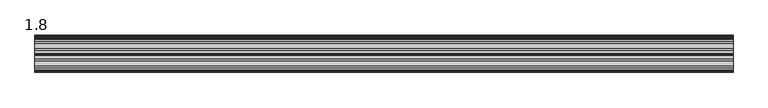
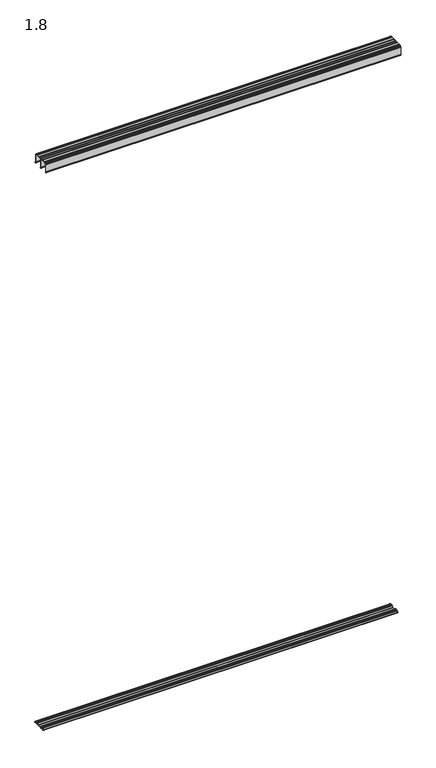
"""IFC4 building model written with IfcOpenShell, lengths in millimetres: proxy geometry, Doors-Other- SOGAL-SOG020022 : 1.8."""

from ifc_helpers import new_model, si_unit, point, frame, frame_2d, origin, place, context, project, spatial, polyline, circle_curve, trimmed, segment, composite_curve, outline, extrude, source, transform, mapped, element, save
from ifc_brep_helpers import plane_surface, cylinder_surface, revolved_surface, advanced_brep


def proxy_1_8_faa1cc4c(model_context):
    return source(origin(), model_context, "Body", "SolidModel", [
        advanced_brep(
        [(800.0000092, 43.0231264, 2711.1679716), (800.0000092, 40.9915477, 2709.1363928), (800.0000092, 38.959969, 2711.1679716), (800.0000092, 30.9999973, 2711.1679716), (800.0000092, 26.8729963, 2711.1679716), (800.0000092, 14.8730021, 2711.1679716), (800.0000092, 10.7460011, 2711.1679716), (800.0000092, 6.3988083, 2711.1679716), (800.0000092, 4.9999855, 2709.6679178), (800.0000092, 4.9999855, 2708.1679003), (800.0000092, 4.0000102, 2707.167925), (800.0000092, 2.4999928, 2707.167925), (800.0000092, 1.0000116, 2705.6679439), (800.0000092, 1.0000116, 2671.6679117), (800.0000092, 0.205002, 2670.0499872), (800.0000092, 0.0, 2669.1679418), (800.0000092, 0.0, 2667.4179531), (800.0000092, 2.1113893, 2667.4179531), (800.0000092, 2.1113893, 2668.6679494), (800.0000092, 1.3113893, 2668.6679494), (800.0000092, 1.3113893, 2667.4179531), (800.0000092, 0.5000058, 2667.4179531), (800.0000092, 0.5000058, 2669.5165112), (800.0000092, 1.4999811, 2671.5519336), (800.0000092, 1.4999811, 2705.6679439), (800.0000092, 2.4999928, 2706.6679555), (800.0000092, 4.0000102, 2706.6679555), (800.0000092, 5.4999913, 2708.1679367), (800.0000092, 5.4999913, 2709.6679178), (800.0000092, 6.4448445, 2710.6764227), (800.0000092, 10.7507969, 2710.6764227), (800.0000092, 14.696305, 2710.7001949), (800.0000092, 27.0496934, 2710.7001949), (800.0000092, 30.9952015, 2710.6764227), (800.0000092, 38.959969, 2710.6764227), (800.0000092, 40.4999989, 2709.1363928), (800.0000092, 40.4999989, 2668.6173711), (800.0000092, 39.9876209, 2667.2285634), (800.0000092, 40.9915477, 2664.6739035), (800.0000092, 41.9954744, 2667.2285634), (800.0000092, 41.4830965, 2668.6173711), (800.0000092, 41.4830965, 2709.1363928), (800.0000092, 43.0231264, 2710.6764227), (800.0000092, 50.9878939, 2710.6764227), (800.0000092, 54.933402, 2710.7001949), (800.0000092, 67.2867904, 2710.7001949), (800.0000092, 71.2322985, 2710.6764227), (800.0000092, 75.5382509, 2710.6764227), (800.0000092, 76.4831041, 2709.6679178), (800.0000092, 76.4831041, 2708.1679367), (800.0000092, 77.9830852, 2706.6679555), (800.0000092, 79.4831026, 2706.6679555), (800.0000092, 80.4831143, 2705.6679439), (800.0000092, 80.4831143, 2671.5519336), (800.0000092, 81.4830896, 2669.5165112), (800.0000092, 81.4830896, 2667.4179531), (800.0000092, 80.6717061, 2667.4179531), (800.0000092, 80.6717061, 2668.6679494), (800.0000092, 79.8717061, 2668.6679494), (800.0000092, 79.8717061, 2667.4179531), (800.0000092, 81.9830954, 2667.4179531), (800.0000092, 81.9830954, 2669.1679418), (800.0000092, 81.7780934, 2670.0499872), (800.0000092, 80.9830837, 2671.6679117), (800.0000092, 80.9830837, 2705.6679439), (800.0000092, 79.4831026, 2707.167925), (800.0000092, 77.9830852, 2707.167925), (800.0000092, 76.9831099, 2708.1679003), (800.0000092, 76.9831099, 2709.6679178), (800.0000092, 75.5842871, 2711.1679716), (800.0000092, 71.2370943, 2711.1679716), (800.0000092, 67.1100933, 2711.1679716), (800.0000092, 55.110099, 2711.1679716), (800.0000092, 50.983098, 2711.1679716), (800.0000092, 41.6980443, 2666.8676318), (800.0000092, 40.2681734, 2666.8676318), (800.0000092, 40.9915477, 2668.6162721), (-799.9999908, 43.0231264, 2711.1679716), (-799.9999908, 50.983098, 2711.1679716), (-799.9999908, 55.110099, 2711.1679716), (-799.9999908, 67.1100933, 2711.1679716), (-799.9999908, 71.2370943, 2711.1679716), (-799.9999908, 75.5842871, 2711.1679716), (-799.9999908, 76.9831099, 2709.6679178), (-799.9999908, 76.9831099, 2708.1679003), (-799.9999908, 77.9830852, 2707.167925), (-799.9999908, 79.4831026, 2707.167925), (-799.9999908, 80.9830837, 2705.6679439), (-799.9999908, 80.9830837, 2671.6679117), (-799.9999908, 81.7780934, 2670.0499872), (-799.9999908, 81.9830954, 2669.1679418), (-799.9999908, 81.9830954, 2667.4179531), (-799.9999908, 79.8717061, 2667.4179531), (-799.9999908, 79.8717061, 2668.6679494), (-799.9999908, 80.6717061, 2668.6679494), (-799.9999908, 80.6717061, 2667.4179531), (-799.9999908, 81.4830896, 2667.4179531), (-799.9999908, 81.4830896, 2669.5165112), (-799.9999908, 80.4831143, 2671.5519336), (-799.9999908, 80.4831143, 2705.6679439), (-799.9999908, 79.4831026, 2706.6679555), (-799.9999908, 77.9830852, 2706.6679555), (-799.9999908, 76.4831041, 2708.1679367), (-799.9999908, 76.4831041, 2709.6679178), (-799.9999908, 75.5382509, 2710.6764227), (-799.9999908, 71.2322985, 2710.6764227), (-799.9999908, 67.2867904, 2710.7001949), (-799.9999908, 54.933402, 2710.7001949), (-799.9999908, 50.9878939, 2710.6764227), (-799.9999908, 43.0231264, 2710.6764227), (-799.9999908, 41.4830965, 2709.1363928), (-799.9999908, 41.4830965, 2668.6173711), (-799.9999908, 41.9954744, 2667.2285634), (-799.9999908, 40.9915477, 2664.6739035), (-799.9999908, 39.9876209, 2667.2285634), (-799.9999908, 40.4999989, 2668.6173711), (-799.9999908, 40.4999989, 2709.1363928), (-799.9999908, 38.959969, 2710.6764227), (-799.9999908, 30.9952015, 2710.6764227), (-799.9999908, 27.0496934, 2710.7001949), (-799.9999908, 14.696305, 2710.7001949), (-799.9999908, 10.7507969, 2710.6764227), (-799.9999908, 6.4448445, 2710.6764227), (-799.9999908, 5.4999913, 2709.6679178), (-799.9999908, 5.4999913, 2708.1679367), (-799.9999908, 4.0000102, 2706.6679555), (-799.9999908, 2.4999928, 2706.6679555), (-799.9999908, 1.4999811, 2705.6679439), (-799.9999908, 1.4999811, 2671.5519336), (-799.9999908, 0.5000058, 2669.5165112), (-799.9999908, 0.5000058, 2667.4179531), (-799.9999908, 1.3113893, 2667.4179531), (-799.9999908, 1.3113893, 2668.6679494), (-799.9999908, 2.1113893, 2668.6679494), (-799.9999908, 2.1113893, 2667.4179531), (-799.9999908, 0.0, 2667.4179531), (-799.9999908, 0.0, 2669.1679418), (-799.9999908, 0.205002, 2670.0499872), (-799.9999908, 1.0000116, 2671.6679117), (-799.9999908, 1.0000116, 2705.6679439), (-799.9999908, 2.4999928, 2707.167925), (-799.9999908, 4.0000102, 2707.167925), (-799.9999908, 4.9999855, 2708.1679003), (-799.9999908, 4.9999855, 2709.6679178), (-799.9999908, 6.3988083, 2711.1679716), (-799.9999908, 10.7460011, 2711.1679716), (-799.9999908, 14.8730021, 2711.1679716), (-799.9999908, 26.8729963, 2711.1679716), (-799.9999908, 30.9999973, 2711.1679716), (-799.9999908, 38.959969, 2711.1679716), (-799.9999908, 40.9915477, 2709.1363928), (-799.9999908, 41.6980443, 2666.8676318), (-799.9999908, 40.9915477, 2668.6162721), (-799.9999908, 40.2681734, 2666.8676318)],
        [
            (0, 1, circle_curve(frame((800.0000092, 43.0231264, 2709.1363928), z_axis=(1.0, 0.0, 0.0), x_axis=(0.0, 1.0, 0.0)), 2.0315787)),
            (1, 2, circle_curve(frame((800.0000092, 38.959969, 2709.1363928), z_axis=(1.0, 0.0, 0.0), x_axis=(0.0, 1.0, 0.0)), 2.0315787)),
            (2, 3),
            (3, 4, circle_curve(frame((800.0000092, 28.9364968, 2707.741466), z_axis=(1.0, 0.0, 0.0), x_axis=(0.0, 1.0, 0.0)), 3.9998718)),
            (4, 5),
            (5, 6, circle_curve(frame((800.0000092, 12.8095016, 2707.741466), z_axis=(1.0, 0.0, 0.0), x_axis=(0.0, 1.0, 0.0)), 3.9998718)),
            (6, 7),
            (7, 8, circle_curve(frame((800.0000092, 6.5037023, 2709.6679178), z_axis=(1.0, 0.0, 0.0), x_axis=(0.0, 1.0, 0.0)), 1.5037168)),
            (8, 9),
            (9, 10, circle_curve(frame((800.0000092, 4.0000102, 2708.1679003), z_axis=(-1.0, 0.0, 0.0), x_axis=(0.0, 1.0, 0.0)), 0.9999753)),
            (10, 11),
            (11, 12, circle_curve(frame((800.0000092, 2.4999928, 2705.6679439), z_axis=(1.0, 0.0, 0.0), x_axis=(0.0, 1.0, 0.0)), 1.4999811)),
            (12, 13),
            (13, 14),
            (14, 15, circle_curve(frame((800.0000092, 2.000053, 2669.1679418), z_axis=(1.0, 0.0, 0.0), x_axis=(0.0, 1.0, 0.0)), 2.000053)),
            (15, 16),
            (16, 17, circle_curve(frame((800.0000092, 1.0556947, 2667.8588098), z_axis=(1.0, 0.0, 0.0), x_axis=(0.0, 1.0, 0.0)), 1.144048)),
            (17, 18),
            (18, 19),
            (19, 20),
            (20, 21),
            (21, 22),
            (22, 23),
            (23, 24),
            (24, 25, circle_curve(frame((800.0000092, 2.4999928, 2705.6679439), z_axis=(-1.0, 0.0, 0.0), x_axis=(0.0, 1.0, 0.0)), 1.0000116)),
            (25, 26),
            (26, 27, circle_curve(frame((800.0000092, 4.0000102, 2708.1679367), z_axis=(1.0, 0.0, 0.0), x_axis=(0.0, 1.0, 0.0)), 1.4999811)),
            (27, 28),
            (28, 29, circle_curve(frame((800.0000092, 6.5106403, 2709.6679178), z_axis=(-1.0, 0.0, 0.0), x_axis=(0.0, 1.0, 0.0)), 1.010649)),
            (29, 30),
            (30, 31, circle_curve(frame((800.0000092, 12.7427575, 2707.5005547), z_axis=(-1.0, 0.0, 0.0), x_axis=(0.0, 1.0, 0.0)), 3.7488725)),
            (31, 32),
            (32, 33, circle_curve(frame((800.0000092, 29.0032408, 2707.5005547), z_axis=(-1.0, 0.0, 0.0), x_axis=(0.0, 1.0, 0.0)), 3.7488725)),
            (33, 34),
            (34, 35, circle_curve(frame((800.0000092, 38.959969, 2709.1363928), z_axis=(-1.0, 0.0, 0.0), x_axis=(0.0, 1.0, 0.0)), 1.5400299)),
            (35, 36),
            (36, 37, circle_curve(frame((800.0000092, 38.9121255, 2668.4142705), z_axis=(-1.0, 0.0, 0.0), x_axis=(0.0, 1.0, 0.0)), 1.6008097)),
            (37, 38, circle_curve(frame((800.0000092, 40.97367, 2666.1414688), z_axis=(1.0, 0.0, 0.0), x_axis=(0.0, 1.0, 0.0)), 1.4676742)),
            (38, 39, circle_curve(frame((800.0000092, 41.0094254, 2666.1414688), z_axis=(1.0, 0.0, 0.0), x_axis=(0.0, 1.0, 0.0)), 1.4676742)),
            (39, 40, circle_curve(frame((800.0000092, 43.0709699, 2668.4142705), z_axis=(-1.0, 0.0, 0.0), x_axis=(0.0, 1.0, 0.0)), 1.6008097)),
            (40, 41),
            (41, 42, circle_curve(frame((800.0000092, 43.0231264, 2709.1363928), z_axis=(-1.0, 0.0, 0.0), x_axis=(0.0, 1.0, 0.0)), 1.5400299)),
            (42, 43),
            (43, 44, circle_curve(frame((800.0000092, 52.9798545, 2707.5005547), z_axis=(-1.0, 0.0, 0.0), x_axis=(0.0, 1.0, 0.0)), 3.7488725)),
            (44, 45),
            (45, 46, circle_curve(frame((800.0000092, 69.2403378, 2707.5005547), z_axis=(-1.0, 0.0, 0.0), x_axis=(0.0, 1.0, 0.0)), 3.7488725)),
            (46, 47),
            (47, 48, circle_curve(frame((800.0000092, 75.4724551, 2709.6679178), z_axis=(-1.0, 0.0, 0.0), x_axis=(0.0, 1.0, 0.0)), 1.010649)),
            (48, 49),
            (49, 50, circle_curve(frame((800.0000092, 77.9830852, 2708.1679367), z_axis=(1.0, 0.0, 0.0), x_axis=(0.0, 1.0, 0.0)), 1.4999811)),
            (50, 51),
            (51, 52, circle_curve(frame((800.0000092, 79.4831026, 2705.6679439), z_axis=(-1.0, 0.0, 0.0), x_axis=(0.0, 1.0, 0.0)), 1.0000116)),
            (52, 53),
            (53, 54),
            (54, 55),
            (55, 56),
            (56, 57),
            (57, 58),
            (58, 59),
            (59, 60, circle_curve(frame((800.0000092, 80.9274007, 2667.8588098), z_axis=(1.0, 0.0, 0.0), x_axis=(0.0, 1.0, 0.0)), 1.144048)),
            (60, 61),
            (61, 62, circle_curve(frame((800.0000092, 79.9830424, 2669.1679418), z_axis=(1.0, 0.0, 0.0), x_axis=(0.0, 1.0, 0.0)), 2.000053)),
            (62, 63),
            (63, 64),
            (64, 65, circle_curve(frame((800.0000092, 79.4831026, 2705.6679439), z_axis=(1.0, 0.0, 0.0), x_axis=(0.0, 1.0, 0.0)), 1.4999811)),
            (65, 66),
            (66, 67, circle_curve(frame((800.0000092, 77.9830852, 2708.1679003), z_axis=(-1.0, 0.0, 0.0), x_axis=(0.0, 1.0, 0.0)), 0.9999753)),
            (67, 68),
            (68, 69, circle_curve(frame((800.0000092, 75.4793931, 2709.6679178), z_axis=(1.0, 0.0, 0.0), x_axis=(0.0, 1.0, 0.0)), 1.5037168)),
            (69, 70),
            (70, 71, circle_curve(frame((800.0000092, 69.1735938, 2707.741466), z_axis=(1.0, 0.0, 0.0), x_axis=(0.0, 1.0, 0.0)), 3.9998718)),
            (71, 72),
            (72, 73, circle_curve(frame((800.0000092, 53.0465985, 2707.741466), z_axis=(1.0, 0.0, 0.0), x_axis=(0.0, 1.0, 0.0)), 3.9998718)),
            (73, 0),
            (74, 75, circle_curve(frame((800.0000092, 40.9831089, 2666.1799102), z_axis=(-1.0, 0.0, 0.0), x_axis=(0.0, 1.0, 0.0)), 0.9920149)),
            (75, 76, circle_curve(frame((800.0000092, 38.4005422, 2668.6641721), z_axis=(1.0, 0.0, 0.0), x_axis=(0.0, 1.0, 0.0)), 2.5914482)),
            (76, 74, circle_curve(frame((800.0000092, 43.3376029, 2668.5470982), z_axis=(1.0, 0.0, 0.0), x_axis=(0.0, 1.0, 0.0)), 2.3470748)),
            (77, 78),
            (78, 79, circle_curve(frame((-799.9999908, 53.0465985, 2707.741466), z_axis=(-1.0, 0.0, 0.0), x_axis=(0.0, 1.0, 0.0)), 3.9998718)),
            (79, 80),
            (80, 81, circle_curve(frame((-799.9999908, 69.1735938, 2707.741466), z_axis=(-1.0, 0.0, 0.0), x_axis=(0.0, 1.0, 0.0)), 3.9998718)),
            (81, 82),
            (82, 83, circle_curve(frame((-799.9999908, 75.4793931, 2709.6679178), z_axis=(-1.0, 0.0, 0.0), x_axis=(0.0, 1.0, 0.0)), 1.5037168)),
            (83, 84),
            (84, 85, circle_curve(frame((-799.9999908, 77.9830852, 2708.1679003), z_axis=(1.0, 0.0, 0.0), x_axis=(0.0, 1.0, 0.0)), 0.9999753)),
            (85, 86),
            (86, 87, circle_curve(frame((-799.9999908, 79.4831026, 2705.6679439), z_axis=(-1.0, 0.0, 0.0), x_axis=(0.0, 1.0, 0.0)), 1.4999811)),
            (87, 88),
            (88, 89),
            (89, 90, circle_curve(frame((-799.9999908, 79.9830424, 2669.1679418), z_axis=(-1.0, 0.0, 0.0), x_axis=(0.0, 1.0, 0.0)), 2.000053)),
            (90, 91),
            (91, 92, circle_curve(frame((-799.9999908, 80.9274007, 2667.8588098), z_axis=(-1.0, 0.0, 0.0), x_axis=(0.0, 1.0, 0.0)), 1.144048)),
            (92, 93),
            (93, 94),
            (94, 95),
            (95, 96),
            (96, 97),
            (97, 98),
            (98, 99),
            (99, 100, circle_curve(frame((-799.9999908, 79.4831026, 2705.6679439), z_axis=(1.0, 0.0, 0.0), x_axis=(0.0, 1.0, 0.0)), 1.0000116)),
            (100, 101),
            (101, 102, circle_curve(frame((-799.9999908, 77.9830852, 2708.1679367), z_axis=(-1.0, 0.0, 0.0), x_axis=(0.0, 1.0, 0.0)), 1.4999811)),
            (102, 103),
            (103, 104, circle_curve(frame((-799.9999908, 75.4724551, 2709.6679178), z_axis=(1.0, 0.0, 0.0), x_axis=(0.0, 1.0, 0.0)), 1.010649)),
            (104, 105),
            (105, 106, circle_curve(frame((-799.9999908, 69.2403378, 2707.5005547), z_axis=(1.0, 0.0, 0.0), x_axis=(0.0, 1.0, 0.0)), 3.7488725)),
            (106, 107),
            (107, 108, circle_curve(frame((-799.9999908, 52.9798545, 2707.5005547), z_axis=(1.0, 0.0, 0.0), x_axis=(0.0, 1.0, 0.0)), 3.7488725)),
            (108, 109),
            (109, 110, circle_curve(frame((-799.9999908, 43.0231264, 2709.1363928), z_axis=(1.0, 0.0, 0.0), x_axis=(0.0, 1.0, 0.0)), 1.5400299)),
            (110, 111),
            (111, 112, circle_curve(frame((-799.9999908, 43.0709699, 2668.4142705), z_axis=(1.0, 0.0, 0.0), x_axis=(0.0, 1.0, 0.0)), 1.6008097)),
            (112, 113, circle_curve(frame((-799.9999908, 41.0094254, 2666.1414688), z_axis=(-1.0, 0.0, 0.0), x_axis=(0.0, 1.0, 0.0)), 1.4676742)),
            (113, 114, circle_curve(frame((-799.9999908, 40.97367, 2666.1414688), z_axis=(-1.0, 0.0, 0.0), x_axis=(0.0, 1.0, 0.0)), 1.4676742)),
            (114, 115, circle_curve(frame((-799.9999908, 38.9121255, 2668.4142705), z_axis=(1.0, 0.0, 0.0), x_axis=(0.0, 1.0, 0.0)), 1.6008097)),
            (115, 116),
            (116, 117, circle_curve(frame((-799.9999908, 38.959969, 2709.1363928), z_axis=(1.0, 0.0, 0.0), x_axis=(0.0, 1.0, 0.0)), 1.5400299)),
            (117, 118),
            (118, 119, circle_curve(frame((-799.9999908, 29.0032408, 2707.5005547), z_axis=(1.0, 0.0, 0.0), x_axis=(0.0, 1.0, 0.0)), 3.7488725)),
            (119, 120),
            (120, 121, circle_curve(frame((-799.9999908, 12.7427575, 2707.5005547), z_axis=(1.0, 0.0, 0.0), x_axis=(0.0, 1.0, 0.0)), 3.7488725)),
            (121, 122),
            (122, 123, circle_curve(frame((-799.9999908, 6.5106403, 2709.6679178), z_axis=(1.0, 0.0, 0.0), x_axis=(0.0, 1.0, 0.0)), 1.010649)),
            (123, 124),
            (124, 125, circle_curve(frame((-799.9999908, 4.0000102, 2708.1679367), z_axis=(-1.0, 0.0, 0.0), x_axis=(0.0, 1.0, 0.0)), 1.4999811)),
            (125, 126),
            (126, 127, circle_curve(frame((-799.9999908, 2.4999928, 2705.6679439), z_axis=(1.0, 0.0, 0.0), x_axis=(0.0, 1.0, 0.0)), 1.0000116)),
            (127, 128),
            (128, 129),
            (129, 130),
            (130, 131),
            (131, 132),
            (132, 133),
            (133, 134),
            (134, 135, circle_curve(frame((-799.9999908, 1.0556947, 2667.8588098), z_axis=(-1.0, 0.0, 0.0), x_axis=(0.0, 1.0, 0.0)), 1.144048)),
            (135, 136),
            (136, 137, circle_curve(frame((-799.9999908, 2.000053, 2669.1679418), z_axis=(-1.0, 0.0, 0.0), x_axis=(0.0, 1.0, 0.0)), 2.000053)),
            (137, 138),
            (138, 139),
            (139, 140, circle_curve(frame((-799.9999908, 2.4999928, 2705.6679439), z_axis=(-1.0, 0.0, 0.0), x_axis=(0.0, 1.0, 0.0)), 1.4999811)),
            (140, 141),
            (141, 142, circle_curve(frame((-799.9999908, 4.0000102, 2708.1679003), z_axis=(1.0, 0.0, 0.0), x_axis=(0.0, 1.0, 0.0)), 0.9999753)),
            (142, 143),
            (143, 144, circle_curve(frame((-799.9999908, 6.5037023, 2709.6679178), z_axis=(-1.0, 0.0, 0.0), x_axis=(0.0, 1.0, 0.0)), 1.5037168)),
            (144, 145),
            (145, 146, circle_curve(frame((-799.9999908, 12.8095016, 2707.741466), z_axis=(-1.0, 0.0, 0.0), x_axis=(0.0, 1.0, 0.0)), 3.9998718)),
            (146, 147),
            (147, 148, circle_curve(frame((-799.9999908, 28.9364968, 2707.741466), z_axis=(-1.0, 0.0, 0.0), x_axis=(0.0, 1.0, 0.0)), 3.9998718)),
            (148, 149),
            (149, 150, circle_curve(frame((-799.9999908, 38.959969, 2709.1363928), z_axis=(-1.0, 0.0, 0.0), x_axis=(0.0, 1.0, 0.0)), 2.0315787)),
            (150, 77, circle_curve(frame((-799.9999908, 43.0231264, 2709.1363928), z_axis=(-1.0, 0.0, 0.0), x_axis=(0.0, 1.0, 0.0)), 2.0315787)),
            (151, 152, circle_curve(frame((-799.9999908, 43.3376029, 2668.5470982), z_axis=(-1.0, 0.0, 0.0), x_axis=(0.0, 1.0, 0.0)), 2.3470748)),
            (152, 153, circle_curve(frame((-799.9999908, 38.4005422, 2668.6641721), z_axis=(-1.0, 0.0, 0.0), x_axis=(0.0, 1.0, 0.0)), 2.5914482)),
            (153, 151, circle_curve(frame((-799.9999908, 40.9831089, 2666.1799102), z_axis=(1.0, 0.0, 0.0), x_axis=(0.0, 1.0, 0.0)), 0.9920149)),
            (0, 77),
            (150, 1),
            (149, 2),
            (148, 3),
            (147, 4),
            (146, 5),
            (145, 6),
            (144, 7),
            (143, 8),
            (142, 9),
            (141, 10),
            (140, 11),
            (139, 12),
            (138, 13),
            (137, 14),
            (136, 15),
            (135, 16),
            (134, 17),
            (133, 18),
            (132, 19),
            (131, 20),
            (130, 21),
            (129, 22),
            (128, 23),
            (127, 24),
            (126, 25),
            (125, 26),
            (124, 27),
            (123, 28),
            (122, 29),
            (121, 30),
            (120, 31),
            (119, 32),
            (118, 33),
            (117, 34),
            (116, 35),
            (115, 36),
            (114, 37),
            (113, 38),
            (112, 39),
            (111, 40),
            (110, 41),
            (109, 42),
            (108, 43),
            (107, 44),
            (106, 45),
            (105, 46),
            (104, 47),
            (103, 48),
            (102, 49),
            (101, 50),
            (100, 51),
            (99, 52),
            (98, 53),
            (97, 54),
            (96, 55),
            (95, 56),
            (94, 57),
            (93, 58),
            (92, 59),
            (91, 60),
            (90, 61),
            (89, 62),
            (88, 63),
            (87, 64),
            (86, 65),
            (85, 66),
            (84, 67),
            (83, 68),
            (82, 69),
            (81, 70),
            (80, 71),
            (79, 72),
            (78, 73),
            (74, 151),
            (153, 75),
            (152, 76),
        ],
        [
            plane_surface(frame((800.0000092, 45.0547052, 2709.1363928), z_axis=(1.0, 0.0, 0.0), x_axis=(0.0, 0.0, 1.0))),
            plane_surface(frame((-799.9999908, 45.0547052, 2709.1363928), z_axis=(-1.0, 0.0, 0.0), x_axis=(0.0, 0.0, -1.0))),
            cylinder_surface(frame((-799.9999908, 43.0231264, 2709.1363928), z_axis=(1.0, 0.0, 0.0), x_axis=(0.0, 1.0, 0.0)), 2.0315787),
            cylinder_surface(frame((-799.9999908, 38.959969, 2709.1363928), z_axis=(1.0, 0.0, 0.0), x_axis=(0.0, 1.0, 0.0)), 2.0315787),
            plane_surface(frame((800.0000092, 38.959969, 2711.1679716), z_axis=(0.0, 0.0, 1.0), x_axis=(-1.0, 0.0, 0.0))),
            cylinder_surface(frame((-799.9999908, 28.9364968, 2707.741466), z_axis=(1.0, 0.0, 0.0), x_axis=(0.0, 1.0, 0.0)), 3.9998718),
            plane_surface(frame((800.0000092, 26.8729963, 2711.1679716), z_axis=(0.0, 0.0, 1.0), x_axis=(-1.0, 0.0, 0.0))),
            cylinder_surface(frame((-799.9999908, 12.8095016, 2707.741466), z_axis=(1.0, 0.0, 0.0), x_axis=(0.0, 1.0, 0.0)), 3.9998718),
            plane_surface(frame((800.0000092, 10.7460011, 2711.1679716), z_axis=(0.0, 0.0, 1.0), x_axis=(-1.0, 0.0, 0.0))),
            cylinder_surface(frame((-799.9999908, 6.5037023, 2709.6679178), z_axis=(1.0, 0.0, 0.0), x_axis=(0.0, 1.0, 0.0)), 1.5037168),
            plane_surface(frame((800.0000092, 4.9999855, 2709.6679178), z_axis=(0.0, -1.0, 0.0), x_axis=(-1.0, 0.0, 0.0))),
            revolved_surface(polyline([(-799.9999908, 4.9999855, 2708.1679003), (800.0000092, 4.9999855, 2708.1679003)]), (-799.9999908, 4.0000102, 2708.1679003), (-1.0, 0.0, 0.0)),
            plane_surface(frame((800.0000092, 4.0000102, 2707.167925), z_axis=(0.0, 0.0, 1.0), x_axis=(-1.0, 0.0, 0.0))),
            cylinder_surface(frame((-799.9999908, 2.4999928, 2705.6679439), z_axis=(1.0, 0.0, 0.0), x_axis=(0.0, 1.0, 0.0)), 1.4999811),
            plane_surface(frame((800.0000092, 1.0000116, 2705.6679439), z_axis=(0.0, -1.0, 0.0), x_axis=(-1.0, 0.0, 0.0))),
            plane_surface(frame((800.0000092, 1.0000116, 2671.6679117), z_axis=(0.0, -0.8975017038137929, 0.44101098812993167), x_axis=(-1.0, 0.0, 0.0))),
            cylinder_surface(frame((-799.9999908, 2.000053, 2669.1679418), z_axis=(1.0, 0.0, 0.0), x_axis=(0.0, 1.0, 0.0)), 2.000053),
            plane_surface(frame((800.0000092, 0.0, 2669.1679418), z_axis=(0.0, -1.0, 0.0), x_axis=(-1.0, 0.0, 0.0))),
            cylinder_surface(frame((-799.9999908, 1.0556947, 2667.8588098), z_axis=(1.0, 0.0, 0.0), x_axis=(0.0, 1.0, 0.0)), 1.144048),
            plane_surface(frame((800.0000092, 2.1113893, 2667.4179531), z_axis=(0.0, 1.0, 0.0), x_axis=(-1.0, 0.0, 0.0))),
            plane_surface(frame((800.0000092, 2.1113893, 2668.6679494), z_axis=(0.0, 0.0, 1.0), x_axis=(-1.0, 0.0, 0.0))),
            plane_surface(frame((800.0000092, 1.3113893, 2668.6679494), z_axis=(0.0, -1.0, 0.0), x_axis=(-1.0, 0.0, 0.0))),
            plane_surface(frame((800.0000092, 1.3113893, 2667.4179531), z_axis=(0.0, 0.0, 1.0), x_axis=(-1.0, 0.0, 0.0))),
            plane_surface(frame((800.0000092, 0.5000058, 2667.4179531), z_axis=(0.0, 1.0, 0.0), x_axis=(-1.0, 0.0, 0.0))),
            plane_surface(frame((800.0000092, 0.5000058, 2669.5165112), z_axis=(0.0, 0.8975336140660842, -0.4409460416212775), x_axis=(-1.0, 0.0, 0.0))),
            plane_surface(frame((800.0000092, 1.4999811, 2671.5519336), z_axis=(0.0, 1.0, -1.9235379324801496e-12), x_axis=(-1.0, 0.0, 0.0))),
            revolved_surface(polyline([(-799.9999908, 3.5000044, 2705.6679439), (800.0000092, 3.5000044, 2705.6679439)]), (-799.9999908, 2.4999928, 2705.6679439), (-1.0, 0.0, 0.0)),
            plane_surface(frame((800.0000092, 2.4999928, 2706.6679555), z_axis=(0.0, 0.0, -1.0), x_axis=(-1.0, 0.0, 0.0))),
            cylinder_surface(frame((-799.9999908, 4.0000102, 2708.1679367), z_axis=(1.0, 0.0, 0.0), x_axis=(0.0, 1.0, 0.0)), 1.4999811),
            plane_surface(frame((800.0000092, 5.4999913, 2708.1679367), z_axis=(0.0, 1.0, 0.0), x_axis=(-1.0, 0.0, 0.0))),
            revolved_surface(polyline([(-799.9999908, 7.5212893, 2709.6679178), (800.0000092, 7.5212893, 2709.6679178)]), (-799.9999908, 6.5106403, 2709.6679178), (-1.0, 0.0, 0.0)),
            plane_surface(frame((800.0000092, 6.4448445, 2710.6764227), z_axis=(0.0, 0.0, -1.0), x_axis=(-1.0, 0.0, 0.0))),
            revolved_surface(polyline([(-799.9999908, 16.49163, 2707.5005547), (800.0000092, 16.49163, 2707.5005547)]), (-799.9999908, 12.7427575, 2707.5005547), (-1.0, 0.0, 0.0)),
            plane_surface(frame((800.0000092, 14.696305, 2710.7001949), z_axis=(0.0, 0.0, -1.0), x_axis=(-1.0, 0.0, 0.0))),
            revolved_surface(polyline([(-799.9999908, 32.7521133, 2707.5005547), (800.0000092, 32.7521133, 2707.5005547)]), (-799.9999908, 29.0032408, 2707.5005547), (-1.0, 0.0, 0.0)),
            plane_surface(frame((800.0000092, 30.9952015, 2710.6764227), z_axis=(0.0, 0.0, -1.0), x_axis=(-1.0, 0.0, 0.0))),
            revolved_surface(polyline([(-799.9999908, 40.4999989, 2709.1363928), (800.0000092, 40.4999989, 2709.1363928)]), (-799.9999908, 38.959969, 2709.1363928), (-1.0, 0.0, 0.0)),
            plane_surface(frame((800.0000092, 40.4999989, 2709.1363928), z_axis=(0.0, -1.0, 0.0), x_axis=(-1.0, 0.0, 0.0))),
            revolved_surface(polyline([(-799.9999908, 40.5129352, 2668.4142705), (800.0000092, 40.5129352, 2668.4142705)]), (-799.9999908, 38.9121255, 2668.4142705), (-1.0, 0.0, 0.0)),
            cylinder_surface(frame((-799.9999908, 40.97367, 2666.1414688), z_axis=(1.0, 0.0, 0.0), x_axis=(0.0, 1.0, 0.0)), 1.4676742),
            cylinder_surface(frame((-799.9999908, 41.0094254, 2666.1414688), z_axis=(1.0, 0.0, 0.0), x_axis=(0.0, 1.0, 0.0)), 1.4676742),
            revolved_surface(polyline([(-799.9999908, 44.6717796, 2668.4142705), (800.0000092, 44.6717796, 2668.4142705)]), (-799.9999908, 43.0709699, 2668.4142705), (-1.0, 0.0, 0.0)),
            plane_surface(frame((800.0000092, 41.4830965, 2668.6173711), z_axis=(0.0, 1.0, 0.0), x_axis=(-1.0, 0.0, 0.0))),
            revolved_surface(polyline([(-799.9999908, 44.5631563, 2709.1363928), (800.0000092, 44.5631563, 2709.1363928)]), (-799.9999908, 43.0231264, 2709.1363928), (-1.0, 0.0, 0.0)),
            plane_surface(frame((800.0000092, 43.0231264, 2710.6764227), z_axis=(0.0, 0.0, -1.0), x_axis=(-1.0, 0.0, 0.0))),
            revolved_surface(polyline([(-799.9999908, 56.728727, 2707.5005547), (800.0000092, 56.728727, 2707.5005547)]), (-799.9999908, 52.9798545, 2707.5005547), (-1.0, 0.0, 0.0)),
            plane_surface(frame((800.0000092, 54.933402, 2710.7001949), z_axis=(0.0, 0.0, -1.0), x_axis=(-1.0, 0.0, 0.0))),
            revolved_surface(polyline([(-799.9999908, 72.98921030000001, 2707.5005547), (800.0000092, 72.98921030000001, 2707.5005547)]), (-799.9999908, 69.2403378, 2707.5005547), (-1.0, 0.0, 0.0)),
            plane_surface(frame((800.0000092, 71.2322985, 2710.6764227), z_axis=(0.0, 0.0, -1.0), x_axis=(-1.0, 0.0, 0.0))),
            revolved_surface(polyline([(-799.9999908, 76.4831041, 2709.6679178), (800.0000092, 76.4831041, 2709.6679178)]), (-799.9999908, 75.4724551, 2709.6679178), (-1.0, 0.0, 0.0)),
            plane_surface(frame((800.0000092, 76.4831041, 2709.6679178), z_axis=(0.0, -1.0, 0.0), x_axis=(-1.0, 0.0, 0.0))),
            cylinder_surface(frame((-799.9999908, 77.9830852, 2708.1679367), z_axis=(1.0, 0.0, 0.0), x_axis=(0.0, 1.0, 0.0)), 1.4999811),
            plane_surface(frame((800.0000092, 77.9830852, 2706.6679555), z_axis=(0.0, 0.0, -1.0), x_axis=(-1.0, 0.0, 0.0))),
            revolved_surface(polyline([(-799.9999908, 80.48311419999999, 2705.6679439), (800.0000092, 80.48311419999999, 2705.6679439)]), (-799.9999908, 79.4831026, 2705.6679439), (-1.0, 0.0, 0.0)),
            plane_surface(frame((800.0000092, 80.4831143, 2705.6679439), z_axis=(0.0, -1.0, 0.0), x_axis=(-1.0, 0.0, 0.0))),
            plane_surface(frame((800.0000092, 80.4831143, 2671.5519336), z_axis=(0.0, -0.8975336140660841, -0.4409460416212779), x_axis=(-1.0, 0.0, 0.0))),
            plane_surface(frame((800.0000092, 81.4830896, 2669.5165112), z_axis=(0.0, -1.0, 0.0), x_axis=(-1.0, 0.0, 0.0))),
            plane_surface(frame((800.0000092, 81.4830896, 2667.4179531), z_axis=(0.0, 0.0, 1.0), x_axis=(-1.0, 0.0, 0.0))),
            plane_surface(frame((800.0000092, 80.6717061, 2667.4179531), z_axis=(0.0, 1.0, 0.0), x_axis=(-1.0, 0.0, 0.0))),
            plane_surface(frame((800.0000092, 80.6717061, 2668.6679494), z_axis=(0.0, 0.0, 1.0), x_axis=(-1.0, 0.0, 0.0))),
            plane_surface(frame((800.0000092, 79.8717061, 2668.6679494), z_axis=(0.0, -1.0, 0.0), x_axis=(-1.0, 0.0, 0.0))),
            cylinder_surface(frame((-799.9999908, 80.9274007, 2667.8588098), z_axis=(1.0, 0.0, 0.0), x_axis=(0.0, 1.0, 0.0)), 1.144048),
            plane_surface(frame((800.0000092, 81.9830954, 2667.4179531), z_axis=(0.0, 1.0, -1.1258989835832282e-10), x_axis=(-1.0, 0.0, 0.0))),
            cylinder_surface(frame((-799.9999908, 79.9830424, 2669.1679418), z_axis=(1.0, 0.0, 0.0), x_axis=(0.0, 1.0, 0.0)), 2.000053),
            plane_surface(frame((800.0000092, 81.7780934, 2670.0499872), z_axis=(0.0, 0.8975017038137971, 0.4410109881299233), x_axis=(-1.0, 0.0, 0.0))),
            plane_surface(frame((800.0000092, 80.9830837, 2671.6679117), z_axis=(0.0, 1.0, 1.929104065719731e-12), x_axis=(-1.0, 0.0, 0.0))),
            cylinder_surface(frame((-799.9999908, 79.4831026, 2705.6679439), z_axis=(1.0, 0.0, 0.0), x_axis=(0.0, 1.0, 0.0)), 1.4999811),
            plane_surface(frame((800.0000092, 79.4831026, 2707.167925), z_axis=(0.0, 0.0, 1.0), x_axis=(-1.0, 0.0, 0.0))),
            revolved_surface(polyline([(-799.9999908, 78.98306050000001, 2708.1679003), (800.0000092, 78.98306050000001, 2708.1679003)]), (-799.9999908, 77.9830852, 2708.1679003), (-1.0, 0.0, 0.0)),
            plane_surface(frame((800.0000092, 76.9831099, 2708.1679003), z_axis=(0.0, 1.0, 0.0), x_axis=(-1.0, 0.0, 0.0))),
            cylinder_surface(frame((-799.9999908, 75.4793931, 2709.6679178), z_axis=(1.0, 0.0, 0.0), x_axis=(0.0, 1.0, 0.0)), 1.5037168),
            plane_surface(frame((800.0000092, 75.5842871, 2711.1679716), z_axis=(0.0, 0.0, 1.0), x_axis=(-1.0, 0.0, 0.0))),
            cylinder_surface(frame((-799.9999908, 69.1735938, 2707.741466), z_axis=(1.0, 0.0, 0.0), x_axis=(0.0, 1.0, 0.0)), 3.9998718),
            plane_surface(frame((800.0000092, 67.1100933, 2711.1679716), z_axis=(0.0, 0.0, 1.0), x_axis=(-1.0, 0.0, 0.0))),
            cylinder_surface(frame((-799.9999908, 53.0465985, 2707.741466), z_axis=(1.0, 0.0, 0.0), x_axis=(0.0, 1.0, 0.0)), 3.9998718),
            plane_surface(frame((800.0000092, 50.983098, 2711.1679716), z_axis=(0.0, 0.0, 1.0), x_axis=(-1.0, 0.0, 0.0))),
            revolved_surface(polyline([(-799.9999908, 41.9751238, 2666.1799102), (800.0000092, 41.9751238, 2666.1799102)]), (9.2e-06, 40.9831089, 2666.1799102), (-1.0, 0.0, 0.0)),
            cylinder_surface(frame((9.2e-06, 38.4005422, 2668.6641721), z_axis=(1.0, 0.0, 0.0), x_axis=(0.0, 1.0, 0.0)), 2.5914482),
            cylinder_surface(frame((9.2e-06, 43.3376029, 2668.5470982), z_axis=(1.0, 0.0, 0.0), x_axis=(0.0, 1.0, 0.0)), 2.3470748),
        ],
        [
            (0, [[1, 2, 3, 4, 5, 6, 7, 8, 9, 10, 11, 12, 13, 14, 15, 16, 17, 18, 19, 20, 21, 22, 23, 24, 25, 26, 27, 28, 29, 30, 31, 32, 33, 34, 35, 36, 37, 38, 39, 40, 41, 42, 43, 44, 45, 46, 47, 48, 49, 50, 51, 52, 53, 54, 55, 56, 57, 58, 59, 60, 61, 62, 63, 64, 65, 66, 67, 68, 69, 70, 71, 72, 73, 74], [75, 76, 77]]),
            (1, [[78, 79, 80, 81, 82, 83, 84, 85, 86, 87, 88, 89, 90, 91, 92, 93, 94, 95, 96, 97, 98, 99, 100, 101, 102, 103, 104, 105, 106, 107, 108, 109, 110, 111, 112, 113, 114, 115, 116, 117, 118, 119, 120, 121, 122, 123, 124, 125, 126, 127, 128, 129, 130, 131, 132, 133, 134, 135, 136, 137, 138, 139, 140, 141, 142, 143, 144, 145, 146, 147, 148, 149, 150, 151], [152, 153, 154]]),
            (2, [[-1, 155, -151, 156]]),
            (3, [[-2, -156, -150, 157]]),
            (4, [[-3, -157, -149, 158]]),
            (5, [[-4, -158, -148, 159]]),
            (6, [[-5, -159, -147, 160]]),
            (7, [[-6, -160, -146, 161]]),
            (8, [[-7, -161, -145, 162]]),
            (9, [[-8, -162, -144, 163]]),
            (10, [[-9, -163, -143, 164]]),
            (11, [[-10, -164, -142, 165]]),
            (12, [[-11, -165, -141, 166]]),
            (13, [[-12, -166, -140, 167]]),
            (14, [[-13, -167, -139, 168]]),
            (15, [[-14, -168, -138, 169]]),
            (16, [[-15, -169, -137, 170]]),
            (17, [[-16, -170, -136, 171]]),
            (18, [[-17, -171, -135, 172]]),
            (19, [[-18, -172, -134, 173]]),
            (20, [[-19, -173, -133, 174]]),
            (21, [[-20, -174, -132, 175]]),
            (22, [[-21, -175, -131, 176]]),
            (23, [[-22, -176, -130, 177]]),
            (24, [[-23, -177, -129, 178]]),
            (25, [[-24, -178, -128, 179]]),
            (26, [[-25, -179, -127, 180]]),
            (27, [[-26, -180, -126, 181]]),
            (28, [[-27, -181, -125, 182]]),
            (29, [[-28, -182, -124, 183]]),
            (30, [[-29, -183, -123, 184]]),
            (31, [[-30, -184, -122, 185]]),
            (32, [[-31, -185, -121, 186]]),
            (33, [[-32, -186, -120, 187]]),
            (34, [[-33, -187, -119, 188]]),
            (35, [[-34, -188, -118, 189]]),
            (36, [[-35, -189, -117, 190]]),
            (37, [[-36, -190, -116, 191]]),
            (38, [[-37, -191, -115, 192]]),
            (39, [[-38, -192, -114, 193]]),
            (40, [[-39, -193, -113, 194]]),
            (41, [[-40, -194, -112, 195]]),
            (42, [[-41, -195, -111, 196]]),
            (43, [[-42, -196, -110, 197]]),
            (44, [[-43, -197, -109, 198]]),
            (45, [[-44, -198, -108, 199]]),
            (46, [[-45, -199, -107, 200]]),
            (47, [[-46, -200, -106, 201]]),
            (48, [[-47, -201, -105, 202]]),
            (49, [[-48, -202, -104, 203]]),
            (50, [[-49, -203, -103, 204]]),
            (51, [[-50, -204, -102, 205]]),
            (52, [[-51, -205, -101, 206]]),
            (53, [[-52, -206, -100, 207]]),
            (54, [[-53, -207, -99, 208]]),
            (55, [[-54, -208, -98, 209]]),
            (56, [[-55, -209, -97, 210]]),
            (57, [[-56, -210, -96, 211]]),
            (58, [[-57, -211, -95, 212]]),
            (59, [[-58, -212, -94, 213]]),
            (60, [[-59, -213, -93, 214]]),
            (61, [[-60, -214, -92, 215]]),
            (62, [[-61, -215, -91, 216]]),
            (63, [[-62, -216, -90, 217]]),
            (64, [[-63, -217, -89, 218]]),
            (65, [[-64, -218, -88, 219]]),
            (66, [[-65, -219, -87, 220]]),
            (67, [[-66, -220, -86, 221]]),
            (68, [[-67, -221, -85, 222]]),
            (69, [[-68, -222, -84, 223]]),
            (70, [[-69, -223, -83, 224]]),
            (71, [[-70, -224, -82, 225]]),
            (72, [[-71, -225, -81, 226]]),
            (73, [[-72, -226, -80, 227]]),
            (74, [[-73, -227, -79, 228]]),
            (75, [[-74, -228, -78, -155]]),
            (76, [[-75, 229, -154, 230]]),
            (77, [[-76, -230, -153, 231]]),
            (78, [[-77, -231, -152, -229]]),
        ],
    ),
        extrude(outline(composite_curve([segment(polyline([(79.0831296, 0.5001148), (79.0831296, 2.8469193)]), True, "CONTINUOUS"), segment(trimmed(circle_curve(frame_2d((77.5831979, 2.8469193)), 1.4999316), [point((79.0831296, 2.8469193))], [point((78.6438393, 3.9075015))], True, "CARTESIAN"), True, "CONTINUOUS"), segment(polyline([(78.6438393, 3.9075015), (76.6878483, 5.8636015)]), True, "CONTINUOUS"), segment(trimmed(circle_curve(frame_2d((77.3243109, 6.5000286)), 0.9000689), [point((76.6878483, 5.8636015))], [point((76.8742528, 7.2794975))], False, "CARTESIAN"), True, "CONTINUOUS"), segment(polyline([(76.8742528, 7.2794975), (77.7170066, 7.7660957)]), True, "CONTINUOUS"), segment(trimmed(circle_curve(frame_2d((78.2170476, 6.90006)), 1.0000294), [point((77.7170066, 7.7660957))], [point((78.5591157, 7.8397665))], False, "CARTESIAN"), True, "CONTINUOUS"), segment(polyline([(78.5591157, 7.8397665), (81.0645671, 6.927742)]), True, "CONTINUOUS"), segment(trimmed(circle_curve(frame_2d((80.3802016, 5.0476997)), 2.0007288), [point((81.0645671, 6.927742))], [point((81.9128261, 6.3337704))], False, "CARTESIAN"), True, "CONTINUOUS"), segment(polyline([(81.9128261, 6.3337704), (85.8491468, 1.6428141)]), True, "CONTINUOUS"), segment(trimmed(circle_curve(frame_2d((85.0831076, 1.0000079)), 1.0000079), [point((85.8491468, 1.6428141))], [point((85.0831076, 0.0))], False, "CARTESIAN"), True, "CONTINUOUS"), segment(polyline([(85.0831076, 0.0), (24.6976678, 0.0), (23.0831512, 0.0)]), True, "CONTINUOUS"), segment(trimmed(circle_curve(frame_2d((23.0831512, 1.0000079)), 1.0000079), [point((23.0831512, 0.0))], [point((22.317112, 1.6428141))], False, "CARTESIAN"), True, "CONTINUOUS"), segment(polyline([(22.317112, 1.6428141), (26.2534327, 6.3337704)]), True, "CONTINUOUS"), segment(trimmed(circle_curve(frame_2d((27.7860572, 5.0476997)), 2.0007288), [point((26.2534327, 6.3337704))], [point((27.1016917, 6.9277421))], False, "CARTESIAN"), True, "CONTINUOUS"), segment(polyline([(27.1016917, 6.9277421), (29.6071431, 7.8397665)]), True, "CONTINUOUS"), segment(trimmed(circle_curve(frame_2d((29.9492113, 6.90006)), 1.0000294), [point((29.6071431, 7.8397665))], [point((30.4492522, 7.7660957))], False, "CARTESIAN"), True, "CONTINUOUS"), segment(polyline([(30.4492522, 7.7660957), (31.292006, 7.2794975)]), True, "CONTINUOUS"), segment(trimmed(circle_curve(frame_2d((30.8419479, 6.5000286)), 0.9000689), [point((31.292006, 7.2794975))], [point((31.4784105, 5.8636015))], False, "CARTESIAN"), True, "CONTINUOUS"), segment(polyline([(31.4784105, 5.8636015), (29.5224195, 3.9075015)]), True, "CONTINUOUS"), segment(trimmed(circle_curve(frame_2d((30.5830609, 2.8469193)), 1.4999316), [point((29.5224195, 3.9075015))], [point((29.0831292, 2.8469193))], True, "CARTESIAN"), True, "CONTINUOUS"), segment(polyline([(29.0831292, 2.8469193), (29.0831292, 0.5001148), (39.0831729, 0.5001148), (39.0831729, 2.8469193)]), True, "CONTINUOUS"), segment(trimmed(circle_curve(frame_2d((37.5832412, 2.8469193)), 1.4999316), [point((39.0831729, 2.8469193))], [point((38.6438826, 3.9075015))], True, "CARTESIAN"), True, "CONTINUOUS"), segment(polyline([(38.6438826, 3.9075015), (36.6878916, 5.8636015)]), True, "CONTINUOUS"), segment(trimmed(circle_curve(frame_2d((37.3243542, 6.5000286)), 0.9000689), [point((36.6878916, 5.8636015))], [point((36.8742961, 7.2794975))], False, "CARTESIAN"), True, "CONTINUOUS"), segment(polyline([(36.8742961, 7.2794975), (37.7170499, 7.7660957)]), True, "CONTINUOUS"), segment(trimmed(circle_curve(frame_2d((38.2170908, 6.90006)), 1.0000294), [point((37.7170499, 7.7660957))], [point((38.559159, 7.8397665))], False, "CARTESIAN"), True, "CONTINUOUS"), segment(polyline([(38.559159, 7.8397665), (41.0646104, 6.927742)]), True, "CONTINUOUS"), segment(trimmed(circle_curve(frame_2d((40.3802449, 5.0476997)), 2.0007288), [point((41.0646104, 6.927742))], [point((41.9128694, 6.3337704))], False, "CARTESIAN"), True, "CONTINUOUS"), segment(polyline([(41.9128694, 6.3337704), (46.305701, 1.0987851)]), True, "CONTINUOUS"), segment(trimmed(circle_curve(frame_2d((47.7161489, 2.4609349)), 1.9608201), [point((46.305701, 1.0987851))], [point((47.7161489, 0.5001148))], True, "CARTESIAN"), True, "CONTINUOUS"), segment(polyline([(47.7161489, 0.5001148), (60.45011, 0.5001148)]), True, "CONTINUOUS"), segment(trimmed(circle_curve(frame_2d((60.45011, 2.4609349)), 1.9608201), [point((60.45011, 0.5001148))], [point((61.8605578, 1.0987851))], True, "CARTESIAN"), True, "CONTINUOUS"), segment(polyline([(61.8605578, 1.0987851), (66.2533895, 6.3337704)]), True, "CONTINUOUS"), segment(trimmed(circle_curve(frame_2d((67.7860139, 5.0476997)), 2.0007288), [point((66.2533895, 6.3337704))], [point((67.1016484, 6.9277421))], False, "CARTESIAN"), True, "CONTINUOUS"), segment(polyline([(67.1016484, 6.9277421), (69.6070998, 7.8397665)]), True, "CONTINUOUS"), segment(trimmed(circle_curve(frame_2d((69.949168, 6.90006)), 1.0000294), [point((69.6070998, 7.8397665))], [point((70.4492089, 7.7660957))], False, "CARTESIAN"), True, "CONTINUOUS"), segment(polyline([(70.4492089, 7.7660957), (71.2919627, 7.2794975)]), True, "CONTINUOUS"), segment(trimmed(circle_curve(frame_2d((70.8419046, 6.5000286)), 0.9000689), [point((71.2919627, 7.2794975))], [point((71.4783672, 5.8636015))], False, "CARTESIAN"), True, "CONTINUOUS"), segment(polyline([(71.4783672, 5.8636015), (69.5223762, 3.9075015)]), True, "CONTINUOUS"), segment(trimmed(circle_curve(frame_2d((70.5830176, 2.8469193)), 1.4999316), [point((69.5223762, 3.9075015))], [point((69.0830859, 2.8469193))], True, "CARTESIAN"), True, "CONTINUOUS"), segment(polyline([(69.0830859, 2.8469193), (69.0830859, 0.5001148), (79.0831296, 0.5001148)]), True, "CONTINUOUS")], self_intersect=False)), frame((-800.0, 0.0, 0.0), z_axis=(1.0, 0.0, 0.0), x_axis=(0.0, 1.0, 0.0)), (0.0, 0.0, 1.0), 1600.0),
    ])


if __name__ == "__main__":
    model = new_model("IFC4")
    model_context = context("Model", 3, world=origin())
    ifc_project = project(units=[si_unit("LENGTHUNIT", "METRE", prefix="MILLI")], contexts=[model_context])
    site = spatial("IfcSite", under=ifc_project)
    building = spatial("IfcBuilding", under=site)
    placement = place(None, origin())
    proxy_1_8_shape = proxy_1_8_faa1cc4c(model_context)
    element("IfcBuildingElementProxy", 1, Name="Doors-Other- SOGAL-SOG020022 : 1.8", ObjectType="Doors-Other- SOGAL-SOG020022 : 1.8", at=placement, inside=building, context=model_context, shape_type="MappedRepresentation", body=[
        mapped(proxy_1_8_shape, transform((0.0, 0.0, 0.0), x_axis=(1.0, 0.0, 0.0), y_axis=(0.0, 1.0, 0.0), z_axis=(0.0, 0.0, 1.0))),
    ])
    save(model, "model.ifc")
